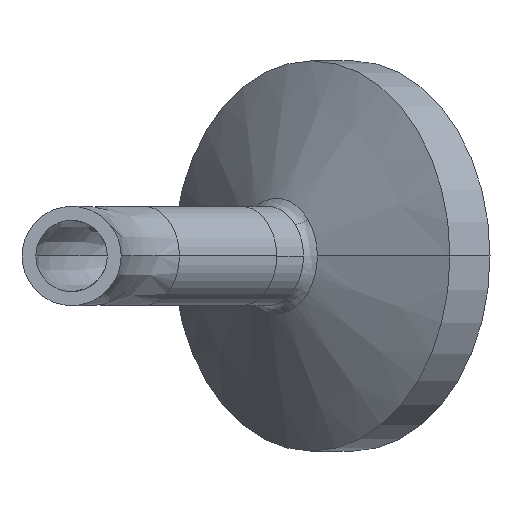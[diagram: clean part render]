
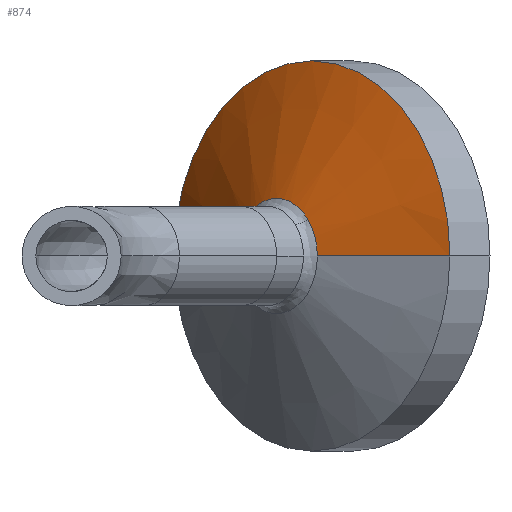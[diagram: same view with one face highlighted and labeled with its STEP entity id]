
A CAD part, front view. The second image highlights one B-rep face of the part: STEP entity #874.
In plain terms, the highlighted conical face has half-angle 70 degrees and reference radius 12.497 mm.
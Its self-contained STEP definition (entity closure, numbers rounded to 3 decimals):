
#8 = CIRCLE ( 'NONE', #182, 12.497 ) ;
#117 = DIRECTION ( 'NONE',  ( 0.543, -0.543, 0.64 ) ) ;
#139 = VERTEX_POINT ( 'NONE', #1061 ) ;
#162 = DIRECTION ( 'NONE',  ( 0.543, -0.543, 0.64 ) ) ;
#172 = DIRECTION ( 'NONE',  ( 0.707, 0.707, 0. ) ) ;
#174 = VERTEX_POINT ( 'NONE', #872 ) ;
#180 = CARTESIAN_POINT ( 'NONE',  ( 13.126, 63.926, 0. ) ) ;
#182 = AXIS2_PLACEMENT_3D ( 'NONE', #689, #602, #117 ) ;
#230 = EDGE_CURVE ( 'NONE', #1183, #139, #844, .T. ) ;
#240 = VECTOR ( 'NONE', #1027, 1000. ) ;
#301 = VERTEX_POINT ( 'NONE', #953 ) ;
#352 = EDGE_CURVE ( 'NONE', #174, #618, #974, .T. ) ;
#363 = CARTESIAN_POINT ( 'NONE',  ( 13.126, 63.926, 0. ) ) ;
#427 = CONICAL_SURFACE ( 'NONE', #675, 12.497, 1.222 ) ;
#436 = VECTOR ( 'NONE', #1121, 1000. ) ;
#495 = DIRECTION ( 'NONE',  ( 0.543, -0.543, 0.64 ) ) ;
#512 = CARTESIAN_POINT ( 'NONE',  ( 15.132, 61.92, 2.364 ) ) ;
#520 = AXIS2_PLACEMENT_3D ( 'NONE', #363, #1248, #495 ) ;
#555 = ORIENTED_EDGE ( 'NONE', *, *, #1032, .F. ) ;
#572 = ORIENTED_EDGE ( 'NONE', *, *, #632, .T. ) ;
#574 = ORIENTED_EDGE ( 'NONE', *, *, #230, .T. ) ;
#592 = ORIENTED_EDGE ( 'NONE', *, *, #649, .T. ) ;
#599 = CIRCLE ( 'NONE', #520, 3.693 ) ;
#601 = EDGE_LOOP ( 'NONE', ( #657, #592, #574, #572, #555 ) ) ;
#602 = DIRECTION ( 'NONE',  ( -0.707, -0.707, 0. ) ) ;
#618 = VERTEX_POINT ( 'NONE', #512 ) ;
#626 = DIRECTION ( 'NONE',  ( 0.707, 0.707, 0. ) ) ;
#632 = EDGE_CURVE ( 'NONE', #139, #301, #8, .T. ) ;
#634 = CARTESIAN_POINT ( 'NONE',  ( 15.392, 66.192, 0. ) ) ;
#646 = DIRECTION ( 'NONE',  ( -0.707, 0.707, 0. ) ) ;
#649 = EDGE_CURVE ( 'NONE', #618, #1183, #599, .T. ) ;
#657 = ORIENTED_EDGE ( 'NONE', *, *, #352, .T. ) ;
#675 = AXIS2_PLACEMENT_3D ( 'NONE', #634, #626, #646 ) ;
#689 = CARTESIAN_POINT ( 'NONE',  ( 15.392, 66.192, 0. ) ) ;
#700 = FACE_OUTER_BOUND ( 'NONE', #601, .T. ) ;
#721 = AXIS2_PLACEMENT_3D ( 'NONE', #180, #172, #162 ) ;
#844 = LINE ( 'NONE', #1012, #436 ) ;
#872 = CARTESIAN_POINT ( 'NONE',  ( 10.515, 66.538, 0. ) ) ;
#874 = ADVANCED_FACE ( 'NONE', ( #700 ), #427, .T. ) ;
#953 = CARTESIAN_POINT ( 'NONE',  ( 6.556, 75.029, 0. ) ) ;
#974 = CIRCLE ( 'NONE', #721, 3.693 ) ;
#1012 = CARTESIAN_POINT ( 'NONE',  ( 24.229, 57.356, 0. ) ) ;
#1027 = DIRECTION ( 'NONE',  ( -0.423, 0.906, 0. ) ) ;
#1032 = EDGE_CURVE ( 'NONE', #174, #301, #1301, .T. ) ;
#1061 = CARTESIAN_POINT ( 'NONE',  ( 24.229, 57.356, 0. ) ) ;
#1080 = CARTESIAN_POINT ( 'NONE',  ( 15.738, 61.315, 0. ) ) ;
#1121 = DIRECTION ( 'NONE',  ( 0.906, -0.423, 0. ) ) ;
#1183 = VERTEX_POINT ( 'NONE', #1080 ) ;
#1248 = DIRECTION ( 'NONE',  ( 0.707, 0.707, 0. ) ) ;
#1286 = CARTESIAN_POINT ( 'NONE',  ( 6.556, 75.029, 0. ) ) ;
#1301 = LINE ( 'NONE', #1286, #240 ) ;
